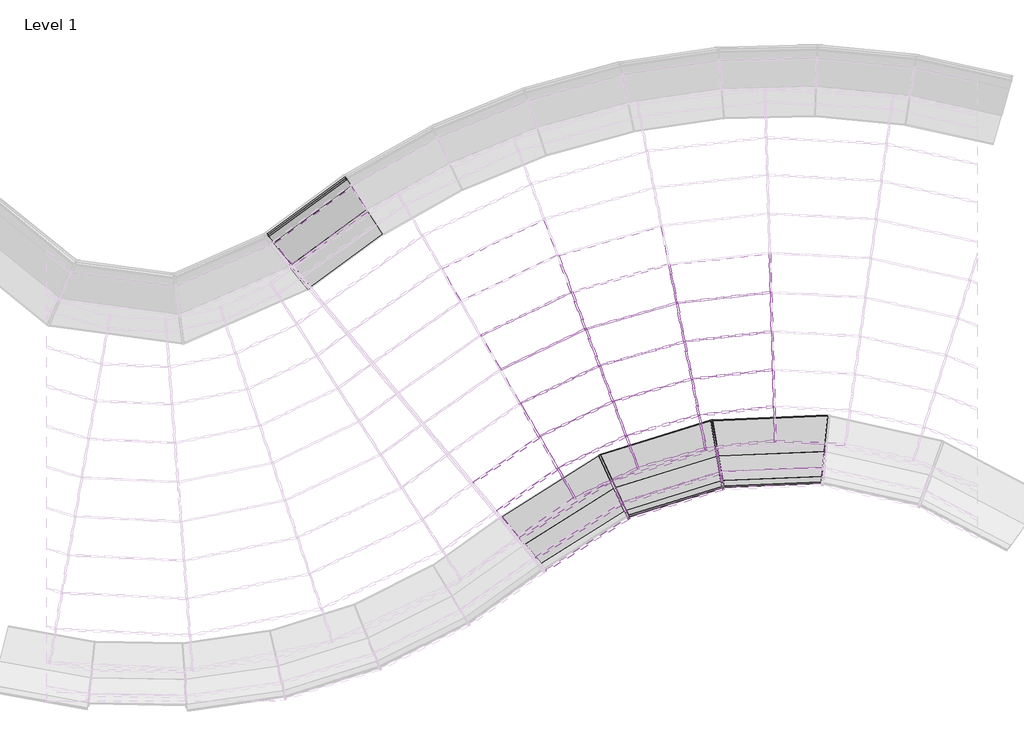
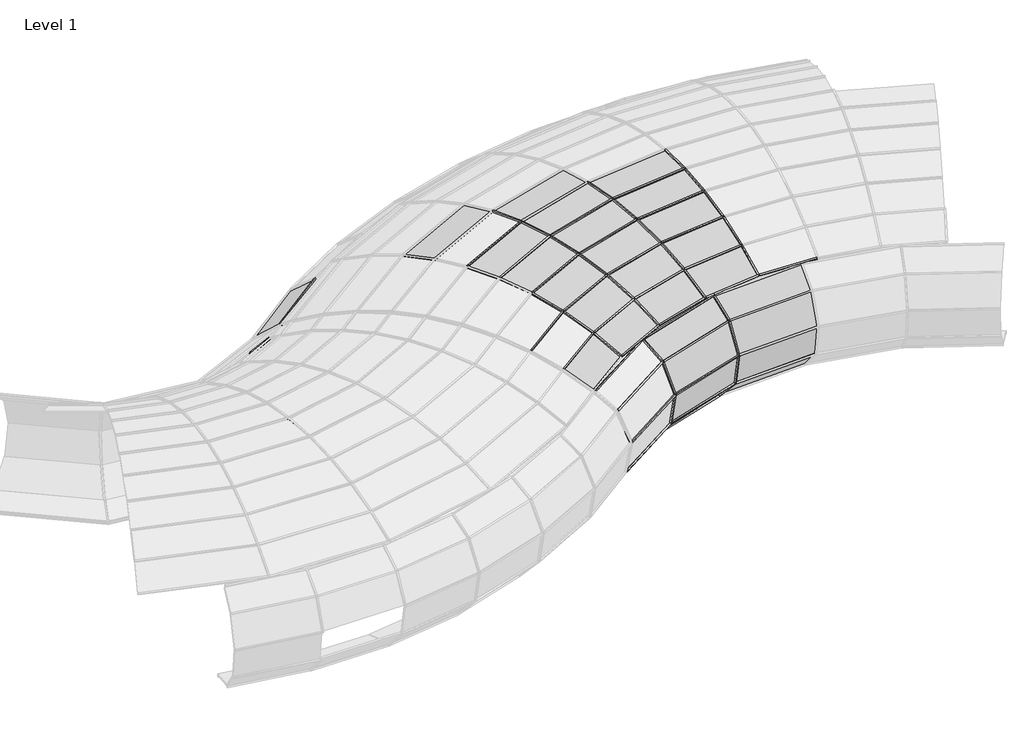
# One storey, part 8 of 23: 65 members, 35 plates.
"""IFC4 building model written with IfcOpenShell, lengths in millimetres."""

from ifc_helpers import new_model, si_unit, origin, place, context, project, spatial, transform, mapped, element, save
from components import member_a1596450, member_f2e23460, member_a2486feb, member_bfa7dfb4, member_bff08ed3, member_8a20969f, member_4c2c1438, member_dcc4074c, member_4657b864, member_55ed2e9f, member_3a0dd7d7, member_3a6df916, member_088ab3f2, member_d0141056, member_dae2b504, member_dc232313, member_c628317b, member_562bdd2e, member_15538b30, member_3e3d858e, member_cb0bb3a9, member_d6b8231b, member_8c9da58c, member_391bee44, member_01ebdf2a, member_0cd36c09, member_e4cc2466, member_b147afb1, member_007022bd, system_panel_glazed_27e063cc, system_panel_glazed_479e5eac, system_panel_glazed_c66e7ca1, system_panel_glazed_7c909565, system_panel_glazed_86ca3999, system_panel_glazed_45ca7c27, system_panel_glazed_82840720, system_panel_glazed_217bc4a3, system_panel_glazed_a2d5a43f, system_panel_glazed_d9dfaa20, system_panel_glazed_11031df9, system_panel_glazed_6b8754b1, system_panel_glazed_51026fb6, system_panel_glazed_e1e187d2, system_panel_glazed_71638be0, system_panel_glazed_05378adf, system_panel_glazed_02202366, system_panel_glazed_899a4bea, system_panel_glazed_94578217, system_panel_glazed_710fb636

model = new_model("IFC4")

# Units and contexts
model_context = context("Model", 3, world=origin())
ifc_project = project(units=[si_unit("LENGTHUNIT", "METRE", prefix="MILLI")], contexts=[model_context])

# Site, building, storey
site = spatial("IfcSite", under=ifc_project)
building = spatial("IfcBuilding", under=site)
storey = spatial("IfcBuildingStorey", under=building, Name="Level 1", Elevation=0.0)

# Members
placement = place(None, origin())
member_shape = member_a1596450(model_context)
element("IfcMember", 1, ObjectType="Rectangular Mullion : 1\" Square", at=placement, inside=storey, context=model_context, shape_type="MappedRepresentation", body=[
    mapped(member_shape, transform((-1111.8650717, -7337.0860284, 629.7792003), x_axis=(0.12543134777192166, -0.40412266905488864, 0.9060639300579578), y_axis=(0.2685839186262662, -0.8653406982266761, -0.4231408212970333), z_axis=(0.9550547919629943, 0.29642932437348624, 0.0))),
])
member_2_shape = member_f2e23460(model_context)
element("IfcMember", 2, ObjectType="Rectangular Mullion : 1\" Square", at=placement, inside=storey, context=model_context, shape_type="MappedRepresentation", body=[
    mapped(member_2_shape, transform((-2753.3298579, -7433.4239268, 170.8694653), x_axis=(0.4499356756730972, -0.7143075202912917, 0.5360248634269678), y_axis=(0.2856859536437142, -0.4535484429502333, -0.8442021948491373), z_axis=(0.8461332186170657, 0.5329714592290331, 0.0))),
])
member_3_shape = member_a2486feb(model_context)
element("IfcMember", 3, ObjectType="Rectangular Mullion : 1\" Square", at=placement, inside=storey, context=model_context, shape_type="MappedRepresentation", body=[
    mapped(member_3_shape, transform((-1179.8997774, -6941.630223, 170.8694653), x_axis=(0.2502462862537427, -0.8062593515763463, 0.5360248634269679), y_axis=(0.15889348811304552, -0.5119331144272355, -0.8442021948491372), z_axis=(0.9550547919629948, 0.29642932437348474, 0.0))),
])
member_4_shape = member_bfa7dfb4(model_context)
element("IfcMember", 4, ObjectType="Rectangular Mullion : 1\" Square", at=placement, inside=storey, context=model_context, shape_type="MappedRepresentation", body=[
    mapped(member_4_shape, transform((-2585.49608, -7797.9041569, 629.7792003), x_axis=(0.22552198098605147, -0.35803350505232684, 0.9060639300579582), y_axis=(0.48290621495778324, -0.7666507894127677, -0.4231408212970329), z_axis=(0.8461332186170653, 0.5329714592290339, 0.0))),
])
member_5_shape = member_bff08ed3(model_context)
element("IfcMember", 5, ObjectType="Rectangular Mullion : 1\" Square", at=placement, inside=storey, context=model_context, shape_type="MappedRepresentation", body=[
    mapped(member_5_shape, transform((-2975.2057389, -6891.371253, 0.0), x_axis=(-0.28435381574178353, 0.916149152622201, -0.2825130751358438), y_axis=(0.08374515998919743, -0.2698154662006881, -0.9592634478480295), z_axis=(-0.9550547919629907, -0.2964293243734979, 0.0))),
])
element("IfcMember", 6, ObjectType="Rectangular Mullion : 1\" Square", at=placement, inside=storey, context=model_context, shape_type="MappedRepresentation", body=[
    mapped(member_5_shape, transform((-1254.2952304, -6360.6695321, 0.0), x_axis=(-0.0381638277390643, 0.958503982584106, -0.28251307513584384), y_axis=(0.011239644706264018, -0.2822894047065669, -0.9592634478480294), z_axis=(-0.999208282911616, -0.03978451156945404, 0.0))),
])
member_6_shape = member_8a20969f(model_context)
element("IfcMember", 7, ObjectType="Rectangular Mullion : 1\" Square", at=placement, inside=storey, context=model_context, shape_type="MappedRepresentation", body=[
    mapped(member_6_shape, transform((-2547.3241371, -7880.801168, 1232.5089476), x_axis=(-0.07158711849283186, 0.11365006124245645, 0.9909384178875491), y_axis=(0.5281418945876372, -0.8384659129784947, 0.13431698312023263), z_axis=(0.8461332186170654, 0.5329714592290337, 0.0))),
])
member_7_shape = member_4c2c1438(model_context)
element("IfcMember", 8, ObjectType="Rectangular Mullion : 1\" Square", at=placement, inside=storey, context=model_context, shape_type="MappedRepresentation", body=[
    mapped(member_7_shape, transform((-1096.3913277, -7427.0280926, 1232.5089476), x_axis=(-0.039815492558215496, 0.12828007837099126, 0.9909384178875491), y_axis=(0.2937432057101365, -0.9464004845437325, 0.13431698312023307), z_axis=(0.9550547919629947, 0.2964293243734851, 0.0))),
])
member_8_shape = member_dcc4074c(model_context)
element("IfcMember", 9, ObjectType="Rectangular Mullion : 1\" Square", at=placement, inside=storey, context=model_context, shape_type="MappedRepresentation", body=[
    mapped(member_8_shape, transform((-2650.8102171, -7656.0631521, 1789.6405438), x_axis=(-0.34544370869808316, 0.54841847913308, 0.7615154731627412), y_axis=(0.4058660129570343, -0.6443435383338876, 0.6481467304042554), z_axis=(0.8461332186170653, 0.5329714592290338, 0.0))),
])
member_9_shape = member_4657b864(model_context)
element("IfcMember", 10, ObjectType="Rectangular Mullion : 1\" Square", at=placement, inside=storey, context=model_context, shape_type="MappedRepresentation", body=[
    mapped(member_9_shape, transform((-1138.3414351, -7183.190579, 1789.6405438), x_axis=(-0.19212969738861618, 0.61901564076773, 0.7615154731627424), y_axis=(0.22573551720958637, -0.7272890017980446, 0.648146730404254), z_axis=(0.9550547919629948, 0.2964293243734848, 0.0))),
])
member_10_shape = member_55ed2e9f(model_context)
element("IfcMember", 11, ObjectType="Rectangular Mullion : 1\" Square", at=placement, inside=storey, context=model_context, shape_type="MappedRepresentation", body=[
    mapped(member_10_shape, transform((-2817.6547413, -7293.7312581, 2085.6089632), x_axis=(-0.4267186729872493, 0.6774487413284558, 0.5991447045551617), y_axis=(0.3193270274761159, -0.5069562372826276, 0.8006407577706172), z_axis=(0.846133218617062, 0.5329714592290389, 0.0))),
])
member_11_shape = member_3a0dd7d7(model_context)
element("IfcMember", 12, ObjectType="Rectangular Mullion : 1\" Square", at=placement, inside=storey, context=model_context, shape_type="MappedRepresentation", body=[
    mapped(member_11_shape, transform((-1205.9751275, -6790.0656875, 2085.6089632), x_axis=(-0.23733339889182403, 0.7646557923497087, 0.5991447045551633), y_axis=(0.17760405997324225, -0.5722160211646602, 0.800640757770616), z_axis=(0.9550547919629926, 0.2964293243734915, 0.0))),
])
member_12_shape = member_3a6df916(model_context)
element("IfcMember", 13, ObjectType="Rectangular Mullion : 1\" Square", at=placement, inside=storey, context=model_context, shape_type="MappedRepresentation", body=[
    mapped(member_12_shape, transform((-2993.9949592, -5535.8741986, 2763.3769688), x_axis=(-0.42081879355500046, 0.8846592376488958, 0.20072263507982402), y_axis=(0.08622265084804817, -0.18126011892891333, 0.9796481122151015), z_axis=(0.9030377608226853, 0.4295611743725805, 0.0))),
])
element("IfcMember", 14, ObjectType="Rectangular Mullion : 1\" Square", at=placement, inside=storey, context=model_context, shape_type="MappedRepresentation", body=[
    mapped(member_12_shape, transform((-1693.052363, -5162.1086673, 2763.3769688), x_axis=(-0.2690550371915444, 0.9419765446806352, 0.20072263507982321), y_axis=(0.05512738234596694, -0.19300401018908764, 0.9796481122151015), z_axis=(0.9615458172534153, 0.2746445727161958, 0.0))),
])
element("IfcMember", 15, ObjectType="Rectangular Mullion : 1\" Square", at=placement, inside=storey, context=model_context, shape_type="MappedRepresentation", body=[
    mapped(member_12_shape, transform((-348.2653143, -5008.1602847, 2763.3769688), x_axis=(-0.10991316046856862, 0.9734626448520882, 0.2007226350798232), y_axis=(0.022520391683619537, -0.1994552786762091, 0.9796481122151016), z_axis=(0.9936860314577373, 0.11219657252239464, 0.0))),
])
member_13_shape = member_088ab3f2(model_context)
element("IfcMember", 16, ObjectType="Rectangular Mullion : 1\" Square", at=placement, inside=storey, context=model_context, shape_type="MappedRepresentation", body=[
    mapped(member_13_shape, transform((-3207.1818204, -4971.4017811, 2850.17796), x_axis=(-0.42807772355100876, 0.8999192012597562, 0.08303549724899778), y_axis=(0.035668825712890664, -0.07498418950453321, 0.9965465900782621), z_axis=(0.9030377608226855, 0.4295611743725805, 0.0))),
])
element("IfcMember", 17, ObjectType="Rectangular Mullion : 1\" Square", at=placement, inside=storey, context=model_context, shape_type="MappedRepresentation", body=[
    mapped(member_13_shape, transform((-1810.1622416, -4570.193957, 2850.17796), x_axis=(-0.2736961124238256, 0.9582252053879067, 0.08303549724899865), y_axis=(0.02280524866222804, -0.07984243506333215, 0.996546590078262), z_axis=(0.9615458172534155, 0.27464457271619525, 0.0))),
])
element("IfcMember", 18, ObjectType="Rectangular Mullion : 1\" Square", at=placement, inside=storey, context=model_context, shape_type="MappedRepresentation", body=[
    mapped(member_13_shape, transform((-366.0867826, -4405.0349717, 2850.17796), x_axis=(-0.11180911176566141, 0.9902544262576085, 0.08303549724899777), y_axis=(0.00931629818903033, -0.08251121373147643, 0.9965465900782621), z_axis=(0.9936860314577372, 0.11219657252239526, 0.0))),
])
member_14_shape = member_d0141056(model_context)
element("IfcMember", 19, ObjectType="Rectangular Mullion : 1\" Square", at=placement, inside=storey, context=model_context, shape_type="MappedRepresentation", body=[
    mapped(member_14_shape, transform((-1578.7813335, -5739.674831, 2605.3528615), x_axis=(-0.2606075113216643, 0.9124012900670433, 0.3156067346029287), y_axis=(0.08667967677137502, -0.3034703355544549, 0.9488900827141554), z_axis=(0.9615458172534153, 0.2746445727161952, 0.0))),
])
element("IfcMember", 20, ObjectType="Rectangular Mullion : 1\" Square", at=placement, inside=storey, context=model_context, shape_type="MappedRepresentation", body=[
    mapped(member_14_shape, transform((-2785.9759398, -6086.6632954, 2605.3528615), x_axis=(-0.40760633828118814, 0.8568835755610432, 0.31560673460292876), y_axis=(0.1355723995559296, -0.28500479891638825, 0.9488900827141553), z_axis=(0.903037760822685, 0.42956117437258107, 0.0))),
])
element("IfcMember", 21, ObjectType="Rectangular Mullion : 1\" Square", at=placement, inside=storey, context=model_context, shape_type="MappedRepresentation", body=[
    mapped(member_14_shape, transform((-330.8758544, -5596.6652959, 2605.3528615), x_axis=(-0.1064622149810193, 0.9428988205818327, 0.3156067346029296), y_axis=(0.035409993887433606, -0.31361400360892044, 0.9488900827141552), z_axis=(0.9936860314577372, 0.11219657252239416, 0.0))),
])
member_15_shape = member_dae2b504(model_context)
element("IfcMember", 22, ObjectType="Rectangular Mullion : 1\" Square", at=placement, inside=storey, context=model_context, shape_type="MappedRepresentation", body=[
    mapped(member_15_shape, transform((-3919.3555649, -6628.1154515, 2605.3528615), x_axis=(-0.5434276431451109, 0.7778681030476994, 0.3156067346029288), y_axis=(0.18074740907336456, -0.25872376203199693, 0.9488900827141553), z_axis=(0.8197662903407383, 0.5726982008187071, 0.0))),
])
member_16_shape = member_dc232313(model_context)
element("IfcMember", 23, ObjectType="Rectangular Mullion : 1\" Square", at=placement, inside=storey, context=model_context, shape_type="MappedRepresentation", body=[
    mapped(member_16_shape, transform((-314.165791, -6162.1777469, 2378.3537392), x_axis=(-0.10150277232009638, 0.8989747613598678, 0.4260769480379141), y_axis=(0.04780437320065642, -0.4233867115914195, 0.9046869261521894), z_axis=(0.9936860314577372, 0.11219657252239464, 0.0))),
])
element("IfcMember", 24, ObjectType="Rectangular Mullion : 1\" Square", at=placement, inside=storey, context=model_context, shape_type="MappedRepresentation", body=[
    mapped(member_16_shape, transform((-1468.974809, -6294.675809, 2378.3537392), x_axis=(-0.24846735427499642, 0.8698979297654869, 0.42607694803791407), y_axis=(0.11701972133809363, -0.40969250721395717, 0.9046869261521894), z_axis=(0.9615458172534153, 0.27464457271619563, 0.0))),
])
element("IfcMember", 25, ObjectType="Rectangular Mullion : 1\" Square", at=placement, inside=storey, context=model_context, shape_type="MappedRepresentation", body=[
    mapped(member_16_shape, transform((-2586.0841067, -6615.9333716, 2378.3537392), x_axis=(-0.3886183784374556, 0.8169664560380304, 0.42607694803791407), y_axis=(0.18302611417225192, -0.3847635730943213, 0.9046869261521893), z_axis=(0.9030377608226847, 0.4295611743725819, 0.0))),
])
member_17_shape = member_c628317b(model_context)
element("IfcMember", 26, ObjectType="Rectangular Mullion : 1\" Square", at=placement, inside=storey, context=model_context, shape_type="MappedRepresentation", body=[
    mapped(member_17_shape, transform((-3422.5036598, -4401.276406, 2864.5209769), x_axis=(-0.42928564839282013, 0.9024585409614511, -0.035810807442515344), y_axis=(-0.015382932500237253, 0.03233851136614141, 0.999358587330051), z_axis=(0.9030377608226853, 0.42956117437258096, 0.0))),
])
member_18_shape = member_562bdd2e(model_context)
element("IfcMember", 27, ObjectType="Rectangular Mullion : 1\" Square", at=placement, inside=storey, context=model_context, shape_type="MappedRepresentation", body=[
    mapped(member_18_shape, transform((-3634.8599263, -7117.1407985, 2378.3537392), x_axis=(-0.5181125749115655, 0.7416318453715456, 0.42607694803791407), y_axis=(0.2440135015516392, -0.3492835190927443, 0.9046869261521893), z_axis=(0.8197662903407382, 0.5726982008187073, 0.0))),
])
member_19_shape = member_15538b30(model_context)
element("IfcMember", 28, ObjectType="Rectangular Mullion : 1\" Square", at=placement, inside=storey, context=model_context, shape_type="MappedRepresentation", body=[
    mapped(member_19_shape, transform((-3344.0990022, -7566.5976687, 2085.6089632), x_axis=(0.3764881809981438, -0.7914659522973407, -0.4814958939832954), y_axis=(0.20683194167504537, -0.4348089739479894, 0.8764483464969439), z_axis=(-0.9030377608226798, -0.429561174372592, 0.0))),
])
element("IfcMember", 29, ObjectType="Rectangular Mullion : 1\" Square", at=placement, inside=storey, context=model_context, shape_type="MappedRepresentation", body=[
    mapped(member_19_shape, transform((-2373.4829728, -7107.2114507, 2085.6089632), x_axis=(0.24071178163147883, -0.8427452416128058, -0.4814958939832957), y_axis=(0.13224023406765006, -0.46298036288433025, 0.8764483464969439), z_axis=(-0.9615458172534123, -0.27464457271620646, 0.0))),
])
element("IfcMember", 30, ObjectType="Rectangular Mullion : 1\" Square", at=placement, inside=storey, context=model_context, shape_type="MappedRepresentation", body=[
    mapped(member_19_shape, transform((-1340.3634872, -6814.3030995, 2085.6089632), x_axis=(0.0983345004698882, -0.8709144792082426, -0.4814958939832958), y_axis=(0.05402218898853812, -0.4784557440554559, 0.8764483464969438), z_axis=(-0.9936860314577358, -0.11219657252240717, 0.0))),
])
element("IfcMember", 31, ObjectType="Rectangular Mullion : 1\" Square", at=placement, inside=storey, context=model_context, shape_type="MappedRepresentation", body=[
    mapped(member_19_shape, transform((-273.0711056, -6695.9048494, 2085.6089632), x_axis=(-0.0467393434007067, -0.8752011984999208, -0.4814958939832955), y_axis=(-0.025677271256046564, -0.48081074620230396, 0.8764483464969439), z_axis=(-0.9985770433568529, 0.05332812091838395, 0.0))),
])
member_20_shape = member_3e3d858e(model_context)
element("IfcMember", 32, ObjectType="Rectangular Mullion : 1\" Square", at=placement, inside=storey, context=model_context, shape_type="MappedRepresentation", body=[
    mapped(member_20_shape, transform((-7686.1774394, -3989.9190153, 2085.6089632), x_axis=(0.4544892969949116, -0.6207954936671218, 0.6387898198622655), y_axis=(-0.37734624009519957, 0.5154243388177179, 0.7693812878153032), z_axis=(-0.8068762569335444, -0.5907204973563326, 0.0))),
])
member_21_shape = member_cb0bb3a9(model_context)
element("IfcMember", 33, ObjectType="Rectangular Mullion : 1\" Square", at=placement, inside=storey, context=model_context, shape_type="MappedRepresentation", body=[
    mapped(member_21_shape, transform((-7766.1458225, -3981.821875, 113.4427618), x_axis=(0.36212467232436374, -0.8248651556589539, -0.4341234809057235), y_axis=(-0.17450877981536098, 0.3975045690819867, -0.9008533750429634), z_axis=(0.9156486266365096, 0.4019795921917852, 0.0))),
])
member_22_shape = member_d6b8231b(model_context)
element("IfcMember", 34, ObjectType="Rectangular Mullion : 1\" Square", at=placement, inside=storey, context=model_context, shape_type="MappedRepresentation", body=[
    mapped(member_22_shape, transform((-2987.3349348, -6895.1359054, 0.0), x_axis=(0.9083268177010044, 0.4182611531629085, 0.0), y_axis=(0.11723763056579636, -0.25460189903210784, -0.9599131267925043), z_axis=(-0.40149437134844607, 0.8719148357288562, -0.280297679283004))),
])
element("IfcMember", 35, ObjectType="Rectangular Mullion : 1\" Square", at=placement, inside=storey, context=model_context, shape_type="MappedRepresentation", body=[
    mapped(member_22_shape, transform((-1266.9851756, -6361.1747954, 0.0), x_axis=(0.9855215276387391, 0.1695503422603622, 0.0), y_axis=(0.04752456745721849, -0.276239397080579, -0.9599131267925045), z_axis=(-0.16275359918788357, 0.9460150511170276, -0.2802976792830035))),
])
member_23_shape = member_8c9da58c(model_context)
element("IfcMember", 36, ObjectType="Rectangular Mullion : 1\" Square", at=placement, inside=storey, context=model_context, shape_type="MappedRepresentation", body=[
    mapped(member_23_shape, transform((-2742.583966, -7426.6551893, 170.8694653), x_axis=(0.9083268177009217, 0.41826115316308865, 0.0), y_axis=(0.3148689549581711, -0.6837926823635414, -0.6582439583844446), z_axis=(-0.27531787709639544, 0.5979006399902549, -0.7528046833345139))),
])
element("IfcMember", 37, ObjectType="Rectangular Mullion : 1\" Square", at=placement, inside=storey, context=model_context, shape_type="MappedRepresentation", body=[
    mapped(member_23_shape, transform((-2574.7501881, -7791.1354194, 629.7792003), x_axis=(0.9083268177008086, 0.418261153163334, 0.0), y_axis=(0.4135473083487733, -0.8980898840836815, -0.14971033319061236), z_axis=(-0.06261801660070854, 0.13598591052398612, -0.9887299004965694))),
])
element("IfcMember", 38, ObjectType="Rectangular Mullion : 1\" Square", at=placement, inside=storey, context=model_context, shape_type="MappedRepresentation", body=[
    mapped(member_23_shape, transform((-1167.7705815, -6937.8655706, 170.8694653), x_axis=(0.9855215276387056, 0.16955034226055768, 0.0), y_axis=(0.12763829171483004, -0.7419052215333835, -0.6582439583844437), z_axis=(-0.11160548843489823, 0.6487135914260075, -0.7528046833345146))),
])
element("IfcMember", 39, ObjectType="Rectangular Mullion : 1\" Square", at=placement, inside=storey, context=model_context, shape_type="MappedRepresentation", body=[
    mapped(member_23_shape, transform((-1099.7358758, -7333.3213759, 629.7792003), x_axis=(0.9855215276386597, 0.16955034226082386, 0.0), y_axis=(0.16763949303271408, -0.9744146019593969, -0.1497103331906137), z_axis=(-0.025383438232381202, 0.1475427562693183, -0.9887299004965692))),
])
member_24_shape = member_391bee44(model_context)
element("IfcMember", 40, ObjectType="Rectangular Mullion : 1\" Square", at=placement, inside=storey, context=model_context, shape_type="MappedRepresentation", body=[
    mapped(member_24_shape, transform((-2536.5782452, -7874.0324305, 1232.5089476), x_axis=(0.9083268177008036, 0.4182611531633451, 0.0), y_axis=(0.3822613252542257, -0.8301469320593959, 0.4058723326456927), z_axis=(0.16976062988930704, -0.3686647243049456, -0.9139297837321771))),
])
element("IfcMember", 41, ObjectType="Rectangular Mullion : 1\" Square", at=placement, inside=storey, context=model_context, shape_type="MappedRepresentation", body=[
    mapped(member_24_shape, transform((-1084.2621319, -7423.2634402, 1232.5089476), x_axis=(0.9855215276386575, 0.16955034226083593, 0.0), y_axis=(0.1549571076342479, -0.9006974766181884, 0.4058723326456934), z_axis=(0.06881579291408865, -0.3999959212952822, -0.9139297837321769))),
])
member_25_shape = member_01ebdf2a(model_context)
element("IfcMember", 42, ObjectType="Rectangular Mullion : 1\" Square", at=placement, inside=storey, context=model_context, shape_type="MappedRepresentation", body=[
    mapped(member_25_shape, transform((-2640.0643252, -7649.2944145, 1789.6405438), x_axis=(0.9083268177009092, 0.4182611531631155, 0.0), y_axis=(0.24922510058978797, -0.541235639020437, 0.8030883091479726), z_axis=(0.3359006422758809, -0.7294666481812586, -0.5958600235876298))),
])
element("IfcMember", 43, ObjectType="Rectangular Mullion : 1\" Square", at=placement, inside=storey, context=model_context, shape_type="MappedRepresentation", body=[
    mapped(member_25_shape, transform((-1126.2122392, -7179.4259265, 1789.6405438), x_axis=(0.9855215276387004, 0.16955034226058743, 0.0), y_axis=(0.10102827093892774, -0.5872328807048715, 0.8030883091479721), z_axis=(0.13616389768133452, -0.7914608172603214, -0.5958600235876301))),
])
member_26_shape = member_0cd36c09(model_context)
element("IfcMember", 44, ObjectType="Rectangular Mullion : 1\" Square", at=placement, inside=storey, context=model_context, shape_type="MappedRepresentation", body=[
    mapped(member_26_shape, transform((-3624.4488944, -7109.8675314, 2378.3537392), x_axis=(0.8643700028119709, 0.5028563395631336, 0.0), y_axis=(0.18725057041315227, -0.3218688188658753, 0.9280828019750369), z_axis=(0.4666923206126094, -0.802206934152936, -0.37237388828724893))),
])
element("IfcMember", 45, ObjectType="Rectangular Mullion : 1\" Square", at=placement, inside=storey, context=model_context, shape_type="MappedRepresentation", body=[
    mapped(member_26_shape, transform((-3908.9445331, -6620.8421843, 2605.3528615), x_axis=(0.8643700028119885, 0.5028563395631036, 0.0), y_axis=(0.130353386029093, -0.2240670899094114, 0.9658167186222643), z_axis=(0.4856670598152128, -0.8348229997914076, -0.2592258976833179))),
])
element("IfcMember", 46, ObjectType="Rectangular Mullion : 1\" Square", at=placement, inside=storey, context=model_context, shape_type="MappedRepresentation", body=[
    mapped(member_26_shape, transform((-2574.6155271, -6610.4779447, 2378.3537392), x_axis=(0.9355040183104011, 0.353316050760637, 0.0), y_axis=(0.13156567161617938, -0.3483572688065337, 0.9280828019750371), z_axis=(0.3279065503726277, -0.8682251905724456, -0.3723738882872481))),
])
element("IfcMember", 47, ObjectType="Rectangular Mullion : 1\" Square", at=placement, inside=storey, context=model_context, shape_type="MappedRepresentation", body=[
    mapped(member_26_shape, transform((-2774.5073603, -6081.2078685, 2605.3528615), x_axis=(0.9355040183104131, 0.3533160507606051, 0.0), y_axis=(0.09158867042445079, -0.242506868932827, 0.9658167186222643), z_axis=(0.341238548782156, -0.9035254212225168, -0.25922589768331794))),
])
element("IfcMember", 48, ObjectType="Rectangular Mullion : 1\" Square", at=placement, inside=storey, context=model_context, shape_type="MappedRepresentation", body=[
    mapped(member_26_shape, transform((-2982.5263796, -5530.4187717, 2763.3769688), x_axis=(0.9355040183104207, 0.353316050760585, 0.0), y_axis=(0.05030869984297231, -0.13320648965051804, 0.9898106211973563), z_axis=(0.3497159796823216, -0.9259718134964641, -0.14239007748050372))),
])
element("IfcMember", 49, ObjectType="Rectangular Mullion : 1\" Square", at=placement, inside=storey, context=model_context, shape_type="MappedRepresentation", body=[
    mapped(member_26_shape, transform((-3195.7132408, -4965.9463542, 2850.17796), x_axis=(0.9355040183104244, 0.35331605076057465, 0.0), y_axis=(0.00831302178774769, -0.022011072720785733, 0.9997231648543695), z_axis=(0.3532182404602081, -0.9352450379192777, -0.023528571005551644))),
])
element("IfcMember", 50, ObjectType="Rectangular Mullion : 1\" Square", at=placement, inside=storey, context=model_context, shape_type="MappedRepresentation", body=[
    mapped(member_26_shape, transform((-1456.7631771, -6291.1878229, 2378.3537392), x_axis=(0.9809843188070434, 0.19408700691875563, 0.0), y_axis=(0.0722729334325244, -0.3652929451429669, 0.9280828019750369), z_axis=(0.18012881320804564, -0.9104346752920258, -0.37237388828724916))),
])
element("IfcMember", 51, ObjectType="Rectangular Mullion : 1\" Square", at=placement, inside=storey, context=model_context, shape_type="MappedRepresentation", body=[
    mapped(member_26_shape, transform((-1566.5697016, -5736.1868449, 2605.3528615), x_axis=(0.9809843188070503, 0.19408700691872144, 0.0), y_axis=(0.05031237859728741, -0.254296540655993, 0.9658167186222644), z_axis=(0.18745247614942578, -0.9474510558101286, -0.2592258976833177))),
])
element("IfcMember", 52, ObjectType="Rectangular Mullion : 1\" Square", at=placement, inside=storey, context=model_context, shape_type="MappedRepresentation", body=[
    mapped(member_26_shape, transform((-1680.8407311, -5158.6206813, 2763.3769688), x_axis=(0.9809843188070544, 0.19408700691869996, 0.0), y_axis=(0.027636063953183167, -0.13968243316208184, 0.9898106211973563), z_axis=(0.19210938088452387, -0.9709886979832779, -0.14239007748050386))),
])
element("IfcMember", 53, ObjectType="Rectangular Mullion : 1\" Square", at=placement, inside=storey, context=model_context, shape_type="MappedRepresentation", body=[
    mapped(member_26_shape, transform((-1797.9506097, -4566.705971, 2850.17796), x_axis=(0.9809843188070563, 0.19408700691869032, 0.0), y_axis=(0.004566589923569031, -0.023081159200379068, 0.9997231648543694), z_axis=(0.19403327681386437, -0.9807127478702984, -0.023528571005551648))),
])
element("IfcMember", 54, ObjectType="Rectangular Mullion : 1\" Square", at=placement, inside=storey, context=model_context, shape_type="MappedRepresentation", body=[
    mapped(member_26_shape, transform((-301.5459784, -6160.7528504, 2378.3537392), x_axis=(0.9995637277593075, 0.02953564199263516, 0.0), y_axis=(0.010998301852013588, -0.3722114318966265, 0.9280828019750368), z_axis=(0.027411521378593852, -0.9276779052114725, -0.3723738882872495))),
])
element("IfcMember", 55, ObjectType="Rectangular Mullion : 1\" Square", at=placement, inside=storey, context=model_context, shape_type="MappedRepresentation", body=[
    mapped(member_26_shape, transform((-318.2560418, -5595.2403994, 2605.3528615), x_axis=(0.9995637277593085, 0.029535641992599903, 0.0), y_axis=(0.00765640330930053, -0.2591128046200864, 0.9658167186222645), z_axis=(0.02852601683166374, -0.9653953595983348, -0.25922589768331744))),
])
element("IfcMember", 56, ObjectType="Rectangular Mullion : 1\" Square", at=placement, inside=storey, context=model_context, shape_type="MappedRepresentation", body=[
    mapped(member_26_shape, transform((-335.6455017, -5006.7353882, 2763.3769688), x_axis=(0.9995637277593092, 0.02953564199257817, 0.0), y_axis=(0.004205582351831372, -0.14232795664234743, 0.9898106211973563), z_axis=(0.02923469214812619, -0.989378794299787, -0.14239007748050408))),
])
element("IfcMember", 57, ObjectType="Rectangular Mullion : 1\" Square", at=placement, inside=storey, context=model_context, shape_type="MappedRepresentation", body=[
    mapped(member_26_shape, transform((-353.46697, -4403.6100752, 2850.17796), x_axis=(0.9995637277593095, 0.029535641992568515, 0.0), y_axis=(0.0006949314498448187, -0.023518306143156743, 0.9997231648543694), z_axis=(0.02952746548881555, -0.9992870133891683, -0.02352857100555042))),
])
element("IfcMember", 58, ObjectType="Rectangular Mullion : 1\" Square", at=placement, inside=storey, context=model_context, shape_type="MappedRepresentation", body=[
    mapped(member_26_shape, transform((-3411.0350802, -4395.8209791, 2864.5209769), x_axis=(0.935504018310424, 0.3533160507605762, 0.0), y_axis=(-0.033800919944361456, 0.08949748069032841, 0.9954133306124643), z_axis=(0.35169550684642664, -0.9312131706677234, 0.095667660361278))),
])
member_27_shape = member_e4cc2466(model_context)
element("IfcMember", 59, ObjectType="Rectangular Mullion : 1\" Square", at=placement, inside=storey, context=model_context, shape_type="MappedRepresentation", body=[
    mapped(member_27_shape, transform((-3355.5675817, -7572.0530956, 2085.6089632), x_axis=(0.8643700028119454, 0.5028563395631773, 0.0), y_axis=(0.24148386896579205, -0.41509154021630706, 0.8771456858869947), z_axis=(0.44107826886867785, -0.758178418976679, -0.4802243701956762))),
])
element("IfcMember", 60, ObjectType="Rectangular Mullion : 1\" Square", at=placement, inside=storey, context=model_context, shape_type="MappedRepresentation", body=[
    mapped(member_27_shape, transform((-2385.6946047, -7110.6994368, 2085.6089632), x_axis=(0.9355040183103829, 0.3533160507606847, 0.0), y_axis=(0.16967097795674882, -0.44925182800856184, 0.8771456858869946), z_axis=(0.309909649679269, -0.8205733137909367, -0.4802243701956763))),
])
element("IfcMember", 61, ObjectType="Rectangular Mullion : 1\" Square", at=placement, inside=storey, context=model_context, shape_type="MappedRepresentation", body=[
    mapped(member_27_shape, transform((-1352.9832998, -6815.727996, 2085.6089632), x_axis=(0.9809843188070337, 0.19408700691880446, 0.0), y_axis=(0.09320531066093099, -0.471092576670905, 0.877145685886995), z_axis=(0.1702425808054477, -0.8604661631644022, -0.48022437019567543))),
])
element("IfcMember", 62, ObjectType="Rectangular Mullion : 1\" Square", at=placement, inside=storey, context=model_context, shape_type="MappedRepresentation", body=[
    mapped(member_27_shape, transform((-285.753034, -6695.2275823, 2085.6089632), x_axis=(0.999563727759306, 0.02953564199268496, 0.0), y_axis=(0.014183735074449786, -0.48001486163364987, 0.8771456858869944), z_axis=(0.02590706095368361, -0.8767630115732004, -0.48022437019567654))),
])
element("IfcMember", 63, ObjectType="Rectangular Mullion : 1\" Square", at=placement, inside=storey, context=model_context, shape_type="MappedRepresentation", body=[
    mapped(member_25_shape, transform((-7754.5170849, -3976.7167342, 113.4427618), x_axis=(0.7730505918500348, 0.634344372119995, 0.0), y_axis=(-0.14487743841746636, 0.17655644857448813, -0.9735698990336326), z_axis=(-0.6175785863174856, 0.7526187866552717, 0.22838925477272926))),
])
member_28_shape = member_b147afb1(model_context)
element("IfcMember", 64, ObjectType="Rectangular Mullion : 1\" Square", at=placement, inside=storey, context=model_context, shape_type="MappedRepresentation", body=[
    mapped(member_28_shape, transform((-7740.012547, -3964.7474807, 113.4427618), x_axis=(-0.7867125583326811, -0.6165764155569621, -0.030279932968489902), y_axis=(-0.40086938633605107, 0.5475550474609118, -0.734497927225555), z_axis=(0.46945402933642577, -0.5657004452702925, -0.677935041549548))),
])
member_29_shape = member_007022bd(model_context)
element("IfcMember", 65, ObjectType="Rectangular Mullion : 1\" Square", at=placement, inside=storey, context=model_context, shape_type="MappedRepresentation", body=[
    mapped(member_29_shape, transform((-7740.012547, -3964.7474807, 113.4427618), x_axis=(0.7696248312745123, 0.6384960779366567, 0.0006144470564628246), y_axis=(-0.1453653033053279, 0.17615606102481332, -0.973569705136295), z_axis=(-0.6217286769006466, 0.74919410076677, 0.22838925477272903))),
])

# Plates
system_panel_glazed_shape = system_panel_glazed_27e063cc(model_context)
element("IfcPlate", 66, ObjectType="System Panel : Glazed", at=placement, inside=storey, context=model_context, shape_type="MappedRepresentation", body=[
    mapped(system_panel_glazed_shape, transform((-3731.0076368, -7392.364483, 7.1758321), x_axis=(0.8461332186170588, 0.5329714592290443, 0.0), y_axis=(-0.1505714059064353, 0.23904369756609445, 0.9592634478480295), z_axis=(0.5112600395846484, -0.8116646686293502, 0.28251307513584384))),
])
system_panel_glazed_2_shape = system_panel_glazed_479e5eac(model_context)
element("IfcPlate", 67, ObjectType="System Panel : Glazed", at=placement, inside=storey, context=model_context, shape_type="MappedRepresentation", body=[
    mapped(system_panel_glazed_2_shape, transform((-3803.316797, -7857.6996082, 2097.8389589), x_axis=(0.8197662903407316, 0.5726982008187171, 0.0), y_axis=(-0.27575183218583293, 0.3947141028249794, -0.8764483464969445), z_axis=(-0.5019403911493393, 0.7184828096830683, 0.4814958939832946))),
])
system_panel_glazed_3_shape = system_panel_glazed_c66e7ca1(model_context)
element("IfcPlate", 68, ObjectType="System Panel : Glazed", at=placement, inside=storey, context=model_context, shape_type="MappedRepresentation", body=[
    mapped(system_panel_glazed_3_shape, transform((-7129.2735474, -3557.9855859, 2069.3837017), x_axis=(0.8068762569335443, 0.5907204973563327, 0.0), y_axis=(0.3773462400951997, -0.5154243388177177, -0.7693812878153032), z_axis=(-0.45448929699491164, 0.6207954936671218, -0.6387898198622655))),
])
system_panel_glazed_4_shape = system_panel_glazed_7c909565(model_context)
element("IfcPlate", 69, ObjectType="System Panel : Glazed", at=placement, inside=storey, context=model_context, shape_type="MappedRepresentation", body=[
    mapped(system_panel_glazed_4_shape, transform((-2119.9374683, -6651.4255389, 7.1758321), x_axis=(0.9550547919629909, 0.29642932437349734, 0.0), y_axis=(-0.08374515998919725, 0.26981546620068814, 0.9592634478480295), z_axis=(0.284353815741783, -0.9161491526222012, 0.2825130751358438))),
])
element("IfcPlate", 70, ObjectType="System Panel : Glazed", at=placement, inside=storey, context=model_context, shape_type="MappedRepresentation", body=[
    mapped(system_panel_glazed_4_shape, transform((-366.0738721, -6349.6886771, 7.1758321), x_axis=(0.999208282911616, 0.039784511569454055, 0.0), y_axis=(-0.011239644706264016, 0.2822894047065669, 0.9592634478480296), z_axis=(0.038163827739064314, -0.958503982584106, 0.28251307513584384))),
])
system_panel_glazed_5_shape = system_panel_glazed_86ca3999(model_context)
element("IfcPlate", 71, ObjectType="System Panel : Glazed", at=placement, inside=storey, context=model_context, shape_type="MappedRepresentation", body=[
    mapped(system_panel_glazed_5_shape, transform((-3430.3622695, -7869.7123109, 180.4653952), x_axis=(0.8461332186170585, 0.5329714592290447, 0.0), y_axis=(-0.40270525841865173, 0.639325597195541, 0.6550505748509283), z_axis=(0.34912326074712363, -0.5542600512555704, 0.7555850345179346))),
])
system_panel_glazed_6_shape = system_panel_glazed_45ca7c27(model_context)
element("IfcPlate", 72, ObjectType="System Panel : Glazed", at=placement, inside=storey, context=model_context, shape_type="MappedRepresentation", body=[
    mapped(system_panel_glazed_6_shape, transform((-1952.711236, -7190.2056167, 180.4653952), x_axis=(0.9550547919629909, 0.2964293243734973, 0.0), y_axis=(-0.22397756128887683, 0.7216251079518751, 0.6550505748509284), z_axis=(0.19417619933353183, -0.6256091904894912, 0.7555850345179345))),
])
element("IfcPlate", 73, ObjectType="System Panel : Glazed", at=placement, inside=storey, context=model_context, shape_type="MappedRepresentation", body=[
    mapped(system_panel_glazed_6_shape, transform((-343.6300266, -6913.3772957, 180.4653952), x_axis=(0.999208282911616, 0.039784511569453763, 0.0), y_axis=(-0.030060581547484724, 0.7549868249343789, 0.6550505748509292), z_axis=(0.026060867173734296, -0.6545319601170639, 0.7555850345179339))),
])
system_panel_glazed_7_shape = system_panel_glazed_82840720(model_context)
element("IfcPlate", 74, ObjectType="System Panel : Glazed", at=placement, inside=storey, context=model_context, shape_type="MappedRepresentation", body=[
    mapped(system_panel_glazed_7_shape, transform((-1836.6841165, -7564.0291469, 642.3384564), x_axis=(0.9550547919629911, 0.2964293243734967, 0.0), y_axis=(-0.2931442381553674, 0.9444706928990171, 0.14846402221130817), z_axis=(0.044009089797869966, -0.1417912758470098, 0.9889178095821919))),
])
element("IfcPlate", 75, ObjectType="System Panel : Glazed", at=placement, inside=storey, context=model_context, shape_type="MappedRepresentation", body=[
    mapped(system_panel_glazed_7_shape, transform((-328.0577404, -7304.4831996, 642.3384564), x_axis=(0.999208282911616, 0.039784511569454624, 0.0), y_axis=(-0.03934361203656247, 0.9881348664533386, 0.14846402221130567), z_axis=(0.005906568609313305, -0.14834648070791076, 0.9889178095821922))),
])
system_panel_glazed_8_shape = system_panel_glazed_217bc4a3(model_context)
element("IfcPlate", 76, ObjectType="System Panel : Glazed", at=placement, inside=storey, context=model_context, shape_type="MappedRepresentation", body=[
    mapped(system_panel_glazed_8_shape, transform((-1811.9372688, -7643.7601099, 1244.1320982), x_axis=(0.9550547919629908, 0.2964293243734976, 0.0), y_axis=(-0.2712946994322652, 0.8740744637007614, -0.4029801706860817), z_axis=(-0.11945513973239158, 0.38486814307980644, 0.9152087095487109))),
])
element("IfcPlate", 77, ObjectType="System Panel : Glazed", at=placement, inside=storey, context=model_context, shape_type="MappedRepresentation", body=[
    mapped(system_panel_glazed_8_shape, transform((-324.7364048, -7387.9002343, 1244.1320982), x_axis=(0.9992082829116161, 0.039784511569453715, 0.0), y_axis=(-0.03641113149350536, 0.9144841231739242, -0.40298017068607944), z_axis=(-0.016032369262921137, 0.4026611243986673, 0.9152087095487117))),
])
system_panel_glazed_9_shape = system_panel_glazed_a2d5a43f(model_context)
element("IfcPlate", 78, ObjectType="System Panel : Glazed", at=placement, inside=storey, context=model_context, shape_type="MappedRepresentation", body=[
    mapped(system_panel_glazed_9_shape, transform((-1886.1524164, -7404.649042, 1797.2496815), x_axis=(0.955054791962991, 0.2964293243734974, 0.0), y_axis=(-0.17760405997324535, 0.5722160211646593, -0.800640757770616), z_axis=(-0.23733339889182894, 0.7646557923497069, 0.5991447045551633))),
])
element("IfcPlate", 79, ObjectType="System Panel : Glazed", at=placement, inside=storey, context=model_context, shape_type="MappedRepresentation", body=[
    mapped(system_panel_glazed_9_shape, transform((-334.6970031, -7137.7347342, 1797.2496815), x_axis=(0.9992082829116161, 0.039784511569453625, 0.0), y_axis=(-0.02383667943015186, 0.598670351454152, -0.8006407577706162), z_axis=(-0.031853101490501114, 0.8000068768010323, 0.5991447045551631))),
])
system_panel_glazed_10_shape = system_panel_glazed_d9dfaa20(model_context)
element("IfcPlate", 80, ObjectType="System Panel : Glazed", at=placement, inside=storey, context=model_context, shape_type="MappedRepresentation", body=[
    mapped(system_panel_glazed_10_shape, transform((-2880.193893, -7321.273031, 2097.8389589), x_axis=(0.9030377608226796, 0.4295611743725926, 0.0), y_axis=(-0.20683194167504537, 0.43480897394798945, -0.8764483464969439), z_axis=(-0.37648818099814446, 0.7914659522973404, 0.4814958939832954))),
])
element("IfcPlate", 81, ObjectType="System Panel : Glazed", at=placement, inside=storey, context=model_context, shape_type="MappedRepresentation", body=[
    mapped(system_panel_glazed_10_shape, transform((-1875.4530315, -6941.8079872, 2097.8389589), x_axis=(0.961545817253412, 0.27464457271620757, 0.0), y_axis=(-0.13224023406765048, 0.4629803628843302, -0.8764483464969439), z_axis=(-0.2407117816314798, 0.8427452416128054, 0.4814958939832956))),
])
element("IfcPlate", 82, ObjectType="System Panel : Glazed", at=placement, inside=storey, context=model_context, shape_type="MappedRepresentation", body=[
    mapped(system_panel_glazed_10_shape, transform((-821.8658632, -6733.3565614, 2097.8389589), x_axis=(0.9936860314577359, 0.1121965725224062, 0.0), y_axis=(-0.054022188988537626, 0.4784557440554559, -0.8764483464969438), z_axis=(-0.09833450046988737, 0.8709144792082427, 0.4814958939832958))),
])
system_panel_glazed_11_shape = system_panel_glazed_11031df9(model_context)
element("IfcPlate", 83, ObjectType="System Panel : Glazed", at=placement, inside=storey, context=model_context, shape_type="MappedRepresentation", body=[
    mapped(system_panel_glazed_11_shape, transform((-3104.5928773, -6849.5340369, 2383.0969125), x_axis=(0.90303776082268, 0.42956117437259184, 0.0), y_axis=(-0.16043173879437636, 0.3372649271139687, -0.9276389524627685), z_axis=(-0.39847767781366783, 0.8376930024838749, 0.3734782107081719))),
])
element("IfcPlate", 84, ObjectType="System Panel : Glazed", at=placement, inside=storey, context=model_context, shape_type="MappedRepresentation", body=[
    mapped(system_panel_glazed_11_shape, transform((-2018.9249439, -6439.5048984, 2383.0969125), x_axis=(0.961545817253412, 0.2746445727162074, 0.0), y_axis=(-0.10257376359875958, 0.35911641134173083, -0.9276389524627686), z_axis=(-0.25477100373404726, 0.8919673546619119, 0.3734782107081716))),
])
element("IfcPlate", 85, ObjectType="System Panel : Glazed", at=placement, inside=storey, context=model_context, shape_type="MappedRepresentation", body=[
    mapped(system_panel_glazed_11_shape, transform((-880.4763672, -6214.2637069, 2383.0969125), x_axis=(0.9936860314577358, 0.1121965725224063, 0.0), y_axis=(-0.04190297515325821, 0.3711200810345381, -0.927638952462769), z_axis=(-0.1040779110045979, 0.9217818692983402, 0.3734782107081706))),
])
system_panel_glazed_12_shape = system_panel_glazed_6b8754b1(model_context)
element("IfcPlate", 86, ObjectType="System Panel : Glazed", at=placement, inside=storey, context=model_context, shape_type="MappedRepresentation", body=[
    mapped(system_panel_glazed_12_shape, transform((-3346.9936676, -6339.9510486, 2608.6556077), x_axis=(0.9030377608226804, 0.42956117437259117, 0.0), y_axis=(-0.11171114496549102, 0.2348428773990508, -0.9655927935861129), z_axis=(-0.41478117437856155, 0.8719667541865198, 0.2600587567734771))),
])
element("IfcPlate", 87, ObjectType="System Panel : Glazed", at=placement, inside=storey, context=model_context, shape_type="MappedRepresentation", body=[
    mapped(system_panel_glazed_12_shape, transform((-2173.9065052, -5896.905893, 2608.6556077), x_axis=(0.961545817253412, 0.2746445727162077, 0.0), y_axis=(-0.07142372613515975, 0.25005840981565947, -0.9655927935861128), z_axis=(-0.2651948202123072, 0.9284617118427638, 0.26005875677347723))),
])
element("IfcPlate", 88, ObjectType="System Panel : Glazed", at=placement, inside=storey, context=model_context, shape_type="MappedRepresentation", body=[
    mapped(system_panel_glazed_12_shape, transform((-943.7887415, -5653.528022, 2608.6556077), x_axis=(0.9936860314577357, 0.11219657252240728, 0.0), y_axis=(-0.029177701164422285, 0.25841675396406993, -0.9655927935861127), z_axis=(-0.10833620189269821, 0.9594960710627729, 0.260058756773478))),
])
system_panel_glazed_13_shape = system_panel_glazed_51026fb6(model_context)
element("IfcPlate", 89, ObjectType="System Panel : Glazed", at=placement, inside=storey, context=model_context, shape_type="MappedRepresentation", body=[
    mapped(system_panel_glazed_13_shape, transform((-3599.1662378, -5809.8255001, 2765.1914265), x_axis=(0.9030377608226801, 0.4295611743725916, 0.0), y_axis=(-0.06137170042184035, 0.1290176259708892, -0.9897413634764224), z_axis=(-0.42515446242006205, 0.8937738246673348, 0.14287068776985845))),
])
element("IfcPlate", 90, ObjectType="System Panel : Glazed", at=placement, inside=storey, context=model_context, shape_type="MappedRepresentation", body=[
    mapped(system_panel_glazed_13_shape, transform((-2335.1357594, -5332.4333693, 2765.1914265), x_axis=(0.961545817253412, 0.27464457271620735, 0.0), y_axis=(-0.03923865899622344, 0.13737671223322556, -0.9897413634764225), z_axis=(-0.27182709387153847, 0.9516816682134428, 0.1428706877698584))),
])
element("IfcPlate", 91, ObjectType="System Panel : Glazed", at=placement, inside=storey, context=model_context, shape_type="MappedRepresentation", body=[
    mapped(system_panel_glazed_13_shape, transform((-1009.6533953, -5070.1876842, 2765.1914265), x_axis=(0.9936860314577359, 0.11219657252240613, 0.0), y_axis=(-0.016029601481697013, 0.14196860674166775, -0.9897413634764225), z_axis=(-0.11104558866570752, 0.9834921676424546, 0.14287068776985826))),
])
system_panel_glazed_14_shape = system_panel_glazed_e1e187d2(model_context)
element("IfcPlate", 92, ObjectType="System Panel : Glazed", at=placement, inside=storey, context=model_context, shape_type="MappedRepresentation", body=[
    mapped(system_panel_glazed_14_shape, transform((-3857.522993, -5266.6993528, 2850.4778018), x_axis=(0.9030377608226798, 0.42956117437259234, 0.0), y_axis=(-0.010141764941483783, 0.02132035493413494, -0.9997212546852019), z_axis=(-0.4294414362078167, 0.9027860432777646, 0.02360959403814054))),
])
element("IfcPlate", 93, ObjectType="System Panel : Glazed", at=placement, inside=storey, context=model_context, shape_type="MappedRepresentation", body=[
    mapped(system_panel_glazed_14_shape, transform((-2500.3189391, -4754.1179347, 2850.4778018), x_axis=(0.9615458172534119, 0.2746445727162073, 0.0), y_axis=(-0.00648424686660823, 0.02270170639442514, -0.9997212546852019), z_axis=(-0.27456801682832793, 0.9612777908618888, 0.023609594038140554))),
])
element("IfcPlate", 94, ObjectType="System Panel : Glazed", at=placement, inside=storey, context=model_context, shape_type="MappedRepresentation", body=[
    mapped(system_panel_glazed_14_shape, transform((-1077.1332891, -4472.5417282, 2850.4778018), x_axis=(0.9936860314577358, 0.11219657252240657, 0.0), y_axis=(-0.0026489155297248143, 0.023460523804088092, -0.9997212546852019), z_axis=(-0.11216529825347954, 0.9934090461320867, 0.023609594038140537))),
])
system_panel_glazed_15_shape = system_panel_glazed_71638be0(model_context)
element("IfcPlate", 95, ObjectType="System Panel : Glazed", at=placement, inside=storey, context=model_context, shape_type="MappedRepresentation", body=[
    mapped(system_panel_glazed_15_shape, transform((-2667.1060659, -4170.1869923, 2863.3018499), x_axis=(0.961545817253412, 0.27464457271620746, 0.0), y_axis=(0.026364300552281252, -0.09230287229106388, -0.9953818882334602), z_axis=(-0.27337623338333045, 0.9571052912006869, -0.0959942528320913))),
])
system_panel_glazed_16_shape = system_panel_glazed_05378adf(model_context)
element("IfcPlate", 96, ObjectType="System Panel : Glazed", at=placement, inside=storey, context=model_context, shape_type="MappedRepresentation", body=[
    mapped(system_panel_glazed_16_shape, transform((-4378.0513889, -4172.427279, 2803.4815699), x_axis=(0.9030377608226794, 0.42956117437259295, 0.0), y_axis=(0.09201407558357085, -0.19343504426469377, -0.9767887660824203), z_axis=(-0.4195905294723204, 0.8820771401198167, -0.21420482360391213))),
])
system_panel_glazed_17_shape = system_panel_glazed_02202366(model_context)
element("IfcPlate", 97, ObjectType="System Panel : Glazed", at=placement, inside=storey, context=model_context, shape_type="MappedRepresentation", body=[
    mapped(system_panel_glazed_17_shape, transform((-7396.7770208, -3192.6074606, 1684.5336808), x_axis=(0.8068762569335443, 0.5907204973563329, 0.0), y_axis=(0.5625568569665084, -0.7684070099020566, -0.30509088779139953), z_axis=(-0.18022344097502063, 0.24617059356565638, -0.9523232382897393))),
])
system_panel_glazed_18_shape = system_panel_glazed_899a4bea(model_context)
element("IfcPlate", 98, ObjectType="System Panel : Glazed", at=placement, inside=storey, context=model_context, shape_type="MappedRepresentation", body=[
    mapped(system_panel_glazed_18_shape, transform((-7502.4255285, -3048.3007375, 1103.9095249), x_axis=(0.8068762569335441, 0.590720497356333, 0.0), y_axis=(0.571291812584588, -0.780338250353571, 0.25435777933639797), z_axis=(0.15025435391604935, -0.20523525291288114, -0.9671101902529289))),
])
system_panel_glazed_19_shape = system_panel_glazed_94578217(model_context)
element("IfcPlate", 99, ObjectType="System Panel : Glazed", at=placement, inside=storey, context=model_context, shape_type="MappedRepresentation", body=[
    mapped(system_panel_glazed_19_shape, transform((-7407.2348503, -3178.3140469, 518.0936043), x_axis=(0.8068762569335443, 0.5907204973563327, 0.0), y_axis=(0.40086938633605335, -0.5475550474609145, 0.7344979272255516), z_axis=(0.43388298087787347, -0.5926489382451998, -0.6786109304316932))),
])
system_panel_glazed_20_shape = system_panel_glazed_710fb636(model_context)
element("IfcPlate", 100, ObjectType="System Panel : Glazed", at=placement, inside=storey, context=model_context, shape_type="MappedRepresentation", body=[
    mapped(system_panel_glazed_20_shape, transform((-7141.2065083, -3541.6790701, 110.5371405), x_axis=(0.8068762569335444, 0.5907204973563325, 0.0), y_axis=(0.13515039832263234, -0.18460447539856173, 0.9734760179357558), z_axis=(0.5750522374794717, -0.7854746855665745, -0.22878907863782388))),
])

save(model, "model.ifc")
